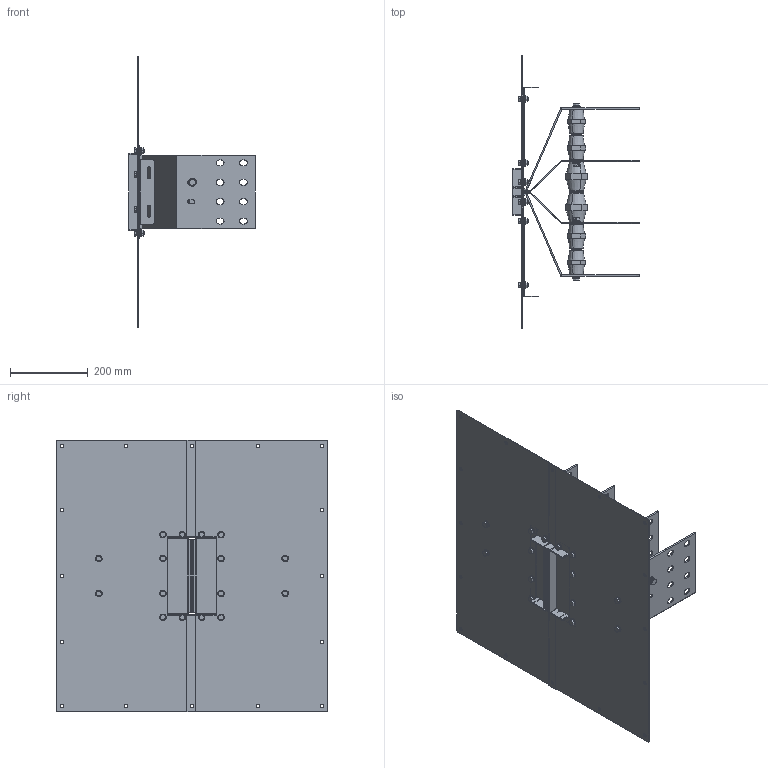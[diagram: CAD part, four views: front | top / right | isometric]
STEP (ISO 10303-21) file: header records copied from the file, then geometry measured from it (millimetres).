
FILE_DESCRIPTION(('CATIA V5 STEP','CAx-IF Rec.Pracs.--- Model Styling and Organization---1.5--- 2016-08-15','CAx-IF Rec.Pracs.---Supplemental Geometry---1.0---2011-11-01','CAx-IF Rec.Pracs.--- Composite Materials ---1.1---2010-07-15'),'2;1');
FILE_NAME('K:\COSCN 2011\32372311_RiduzioneSezioniBarre\03_Studio\__Modelli semplificati\XCP_UB semplificati per studi\XCP-S_UB_4C_Pe_CRT_Assieme\Cu\XCP-S_UB_4C_Pe_S_Assieme - 2000A Cu_CRT\XCP-S_UB_4C_Pe_S_Assieme - 2000A Cu_CRT.stp','2025-05-12T13:06:28+00:00',('Utente Bticino'),('Bticino S.p.A.'),'CATIA Version 5-6 Release 2020 SP5','CATIA V5 STEP AP214 v2','none');
FILE_SCHEMA(('AUTOMOTIVE_DESIGN { 1 0 10303 214 1 1 1 1 }'));
Length unit declared in the file: millimetre
Products named in the file (20): XCP-S_UB_4C_Pe_S_Assieme - 2000A Cu_CRT; XCP-S_UB_4C_Pe_S_PaccoBarre_2000A Cu_CRT; XCP-S_UB_4C_Pe_S_Lamiere_2000A Cu_CRT; Ass_M10x25.1; 00740025 M10x25 UNI5739; Rondella spac M10 UNI 1751; 00750005; 130006; 130184; 130006_1; 130184_1; 130006_2; 130006_3; 00750033 - RONDELLA PIANA 4.8 D.12 UNI 6592 ZB; 00750033 - RONDELLA PIANA 4.8 D.12 UNI 6592 ZB_1; 00750033 - RONDELLA PIANA 4.8 D.12 UNI 6592 ZB_2; Viteria UB H130; Ass Vite+dado M8; Steel hex flanged SCREW M12x16; Steel hex flanged NUT M8
Assembly tree (39 placements, depth 4):
  XCP-S_UB_4C_Pe_S_Assieme - 2000A Cu_CRT
    XCP-S_UB_4C_Pe_S_PaccoBarre_2000A Cu_CRT
    XCP-S_UB_4C_Pe_S_Lamiere_2000A Cu_CRT
    Ass_M10x25.1  x6
      00740025 M10x25 UNI5739
      Rondella spac M10 UNI 1751
      00750005
    130006
    130184
    130006_1
    130184_1
    130006_2
    130006_3
    00750033 - RONDELLA PIANA 4.8 D.12 UNI 6592 ZB
    00750033 - RONDELLA PIANA 4.8 D.12 UNI 6592 ZB_1
    00750033 - RONDELLA PIANA 4.8 D.12 UNI 6592 ZB_2
    Viteria UB H130
      Ass Vite+dado M8  x16
        Steel hex flanged SCREW M12x16
        Steel hex flanged NUT M8
Bounding box: 325 x 700 x 700 mm (x, y, z)
Volume: 2984855.8 mm3; surface area: 2065911.2 mm2
Topology: 73 solids, 73 shells, 1716 faces, 4148 edges, 2616 vertices
Faces by surface type: plane 760, cylinder 516, cone 200, bspline 176, torus 64
Entity records: 25643 total; most frequent: CARTESIAN_POINT 5526, ORIENTED_EDGE 4288, DIRECTION 3378, EDGE_CURVE 2144, AXIS2_PLACEMENT_3D 1462, VERTEX_POINT 1376, VECTOR 1252, LINE 1252
